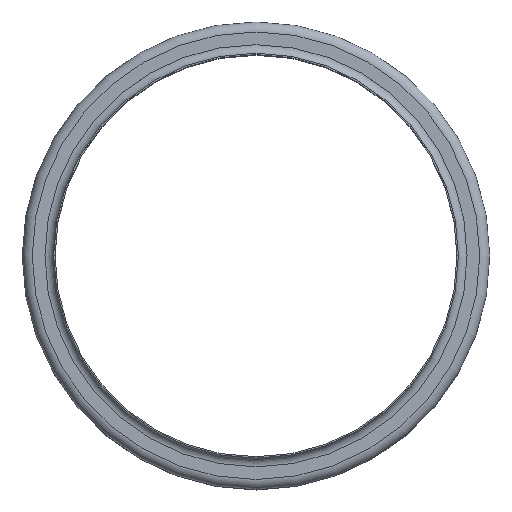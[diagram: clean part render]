
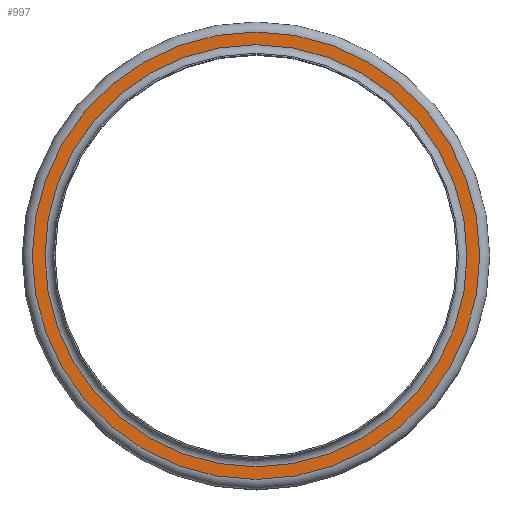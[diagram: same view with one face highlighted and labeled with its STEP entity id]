
A CAD part, top view. The second image highlights one B-rep face of the part: STEP entity #997.
In plain terms, the highlighted planar face has unit normal (0, 0, 1).
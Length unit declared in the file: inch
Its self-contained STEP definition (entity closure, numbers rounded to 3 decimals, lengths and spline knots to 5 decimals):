
#95=FACE_BOUND('',#269,.T.);
#162=FACE_OUTER_BOUND('',#268,.T.);
#268=EDGE_LOOP('',(#769));
#269=EDGE_LOOP('',(#770));
#382=CIRCLE('',#1186,5.643);
#383=CIRCLE('',#1188,5.982);
#463=VERTEX_POINT('',#1810);
#464=VERTEX_POINT('',#1814);
#568=EDGE_CURVE('',#463,#463,#382,.T.);
#569=EDGE_CURVE('',#464,#464,#383,.T.);
#769=ORIENTED_EDGE('',*,*,#569,.F.);
#770=ORIENTED_EDGE('',*,*,#568,.T.);
#851=PLANE('',#1187);
#997=ADVANCED_FACE('',(#162,#95),#851,.T.);
#1186=AXIS2_PLACEMENT_3D('',#1812,#1522,#1523);
#1187=AXIS2_PLACEMENT_3D('',#1813,#1524,#1525);
#1188=AXIS2_PLACEMENT_3D('',#1815,#1526,#1527);
#1522=DIRECTION('center_axis',(0.,0.,-1.));
#1523=DIRECTION('ref_axis',(1.,0.,0.));
#1524=DIRECTION('center_axis',(0.,0.,1.));
#1525=DIRECTION('ref_axis',(1.,0.,0.));
#1526=DIRECTION('center_axis',(0.,0.,-1.));
#1527=DIRECTION('ref_axis',(1.,0.,0.));
#1810=CARTESIAN_POINT('',(5.643,0.,-0.232));
#1812=CARTESIAN_POINT('Origin',(0.,0.,-0.232));
#1813=CARTESIAN_POINT('Origin',(0.,5.982,-0.232));
#1814=CARTESIAN_POINT('',(5.982,0.,-0.232));
#1815=CARTESIAN_POINT('Origin',(0.,0.,-0.232));
